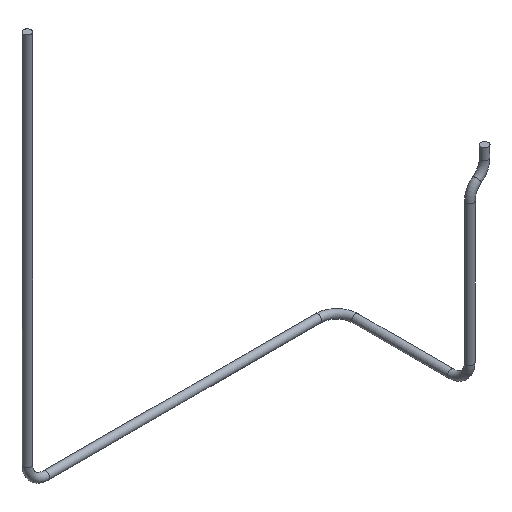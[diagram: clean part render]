
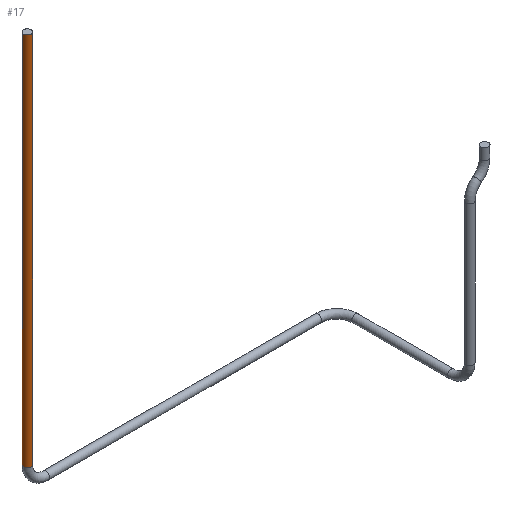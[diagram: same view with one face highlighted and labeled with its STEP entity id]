
A CAD part, isometric view. The second image highlights one B-rep face of the part: STEP entity #17.
In plain terms, the highlighted cylindrical face has radius 1 mm (diameter 2 mm), a full revolution.
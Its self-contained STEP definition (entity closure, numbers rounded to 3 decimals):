
#17 = ADVANCED_FACE('',(#18),#32,.T.);
#18 = FACE_BOUND('',#19,.T.);
#19 = EDGE_LOOP('',(#20,#49,#75,#76));
#20 = ORIENTED_EDGE('',*,*,#21,.T.);
#21 = EDGE_CURVE('',#22,#24,#26,.T.);
#22 = VERTEX_POINT('',#23);
#23 = CARTESIAN_POINT('',(415.4,550.,810.));
#24 = VERTEX_POINT('',#25);
#25 = CARTESIAN_POINT('',(415.4,550.,710.));
#26 = SEAM_CURVE('',#27,(#31,#42),.PCURVE_S1.);
#27 = LINE('',#28,#29);
#28 = CARTESIAN_POINT('',(415.4,550.,810.));
#29 = VECTOR('',#30,1.);
#30 = DIRECTION('',(0.,0.,-1.));
#31 = PCURVE('',#32,#37);
#32 = CYLINDRICAL_SURFACE('',#33,1.);
#33 = AXIS2_PLACEMENT_3D('',#34,#35,#36);
#34 = CARTESIAN_POINT('',(416.4,550.,810.));
#35 = DIRECTION('',(0.,0.,-1.));
#36 = DIRECTION('',(-1.,0.,0.));
#37 = DEFINITIONAL_REPRESENTATION('',(#38),#41);
#38 = B_SPLINE_CURVE_WITH_KNOTS('',1,(#39,#40),.UNSPECIFIED.,.F.,.F.,(2,
    2),(0.,100.),.PIECEWISE_BEZIER_KNOTS.);
#39 = CARTESIAN_POINT('',(6.283,0.));
#40 = CARTESIAN_POINT('',(6.283,100.));
#41 = ( GEOMETRIC_REPRESENTATION_CONTEXT(2) 
PARAMETRIC_REPRESENTATION_CONTEXT() REPRESENTATION_CONTEXT('2D SPACE',''
  ) );
#42 = PCURVE('',#32,#43);
#43 = DEFINITIONAL_REPRESENTATION('',(#44),#48);
#44 = LINE('',#45,#46);
#45 = CARTESIAN_POINT('',(0.,0.));
#46 = VECTOR('',#47,1.);
#47 = DIRECTION('',(0.,1.));
#48 = ( GEOMETRIC_REPRESENTATION_CONTEXT(2) 
PARAMETRIC_REPRESENTATION_CONTEXT() REPRESENTATION_CONTEXT('2D SPACE',''
  ) );
#49 = ORIENTED_EDGE('',*,*,#50,.F.);
#50 = EDGE_CURVE('',#24,#24,#51,.T.);
#51 = SURFACE_CURVE('',#52,(#57,#64),.PCURVE_S1.);
#52 = CIRCLE('',#53,1.);
#53 = AXIS2_PLACEMENT_3D('',#54,#55,#56);
#54 = CARTESIAN_POINT('',(416.4,550.,710.));
#55 = DIRECTION('',(0.,0.,-1.));
#56 = DIRECTION('',(-1.,0.,0.));
#57 = PCURVE('',#32,#58);
#58 = DEFINITIONAL_REPRESENTATION('',(#59),#63);
#59 = LINE('',#60,#61);
#60 = CARTESIAN_POINT('',(0.,100.));
#61 = VECTOR('',#62,1.);
#62 = DIRECTION('',(1.,0.));
#63 = ( GEOMETRIC_REPRESENTATION_CONTEXT(2) 
PARAMETRIC_REPRESENTATION_CONTEXT() REPRESENTATION_CONTEXT('2D SPACE',''
  ) );
#64 = PCURVE('',#65,#70);
#65 = TOROIDAL_SURFACE('',#66,5.,1.);
#66 = AXIS2_PLACEMENT_3D('',#67,#68,#69);
#67 = CARTESIAN_POINT('',(421.4,550.,710.));
#68 = DIRECTION('',(-0.,-1.,-0.));
#69 = DIRECTION('',(-1.,0.,0.));
#70 = DEFINITIONAL_REPRESENTATION('',(#71),#74);
#71 = B_SPLINE_CURVE_WITH_KNOTS('',1,(#72,#73),.UNSPECIFIED.,.F.,.F.,(2,
    2),(0.,6.283),.PIECEWISE_BEZIER_KNOTS.);
#72 = CARTESIAN_POINT('',(0.,6.283));
#73 = CARTESIAN_POINT('',(0.,0.));
#74 = ( GEOMETRIC_REPRESENTATION_CONTEXT(2) 
PARAMETRIC_REPRESENTATION_CONTEXT() REPRESENTATION_CONTEXT('2D SPACE',''
  ) );
#75 = ORIENTED_EDGE('',*,*,#21,.F.);
#76 = ORIENTED_EDGE('',*,*,#77,.T.);
#77 = EDGE_CURVE('',#22,#22,#78,.T.);
#78 = SURFACE_CURVE('',#79,(#84,#91),.PCURVE_S1.);
#79 = CIRCLE('',#80,1.);
#80 = AXIS2_PLACEMENT_3D('',#81,#82,#83);
#81 = CARTESIAN_POINT('',(416.4,550.,810.));
#82 = DIRECTION('',(0.,0.,-1.));
#83 = DIRECTION('',(-1.,0.,0.));
#84 = PCURVE('',#32,#85);
#85 = DEFINITIONAL_REPRESENTATION('',(#86),#90);
#86 = LINE('',#87,#88);
#87 = CARTESIAN_POINT('',(0.,0.));
#88 = VECTOR('',#89,1.);
#89 = DIRECTION('',(1.,0.));
#90 = ( GEOMETRIC_REPRESENTATION_CONTEXT(2) 
PARAMETRIC_REPRESENTATION_CONTEXT() REPRESENTATION_CONTEXT('2D SPACE',''
  ) );
#91 = PCURVE('',#92,#97);
#92 = PLANE('',#93);
#93 = AXIS2_PLACEMENT_3D('',#94,#95,#96);
#94 = CARTESIAN_POINT('',(416.4,550.,810.));
#95 = DIRECTION('',(-0.,-0.,-1.));
#96 = DIRECTION('',(-1.,0.,0.));
#97 = DEFINITIONAL_REPRESENTATION('',(#98),#102);
#98 = CIRCLE('',#99,1.);
#99 = AXIS2_PLACEMENT_2D('',#100,#101);
#100 = CARTESIAN_POINT('',(0.,0.));
#101 = DIRECTION('',(1.,0.));
#102 = ( GEOMETRIC_REPRESENTATION_CONTEXT(2) 
PARAMETRIC_REPRESENTATION_CONTEXT() REPRESENTATION_CONTEXT('2D SPACE',''
  ) );
